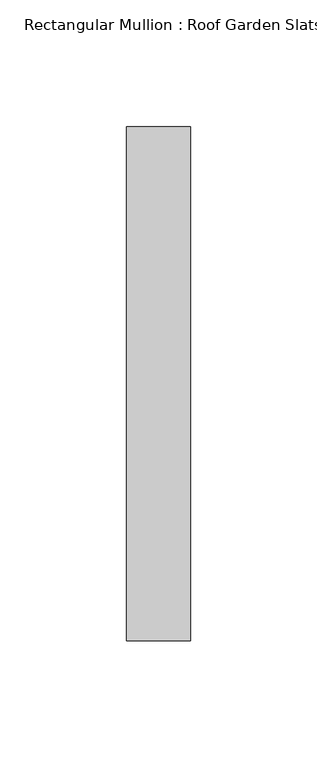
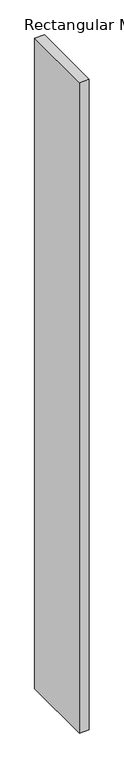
"""IFC4 building model written with IfcOpenShell, lengths in millimetres: member geometry, Rectangular Mullion : Roof Garden Slats."""

from ifc_helpers import new_model, si_unit, frame, origin, place, context, project, spatial, polyline, outline, extrude, source, transform, mapped, element, save


def rectangular_mullion_roof_garden_slats_b5a9ad73(model_context):
    return source(origin(), model_context, "Body", "SweptSolid", [
        extrude(outline(polyline([(12.7, 139.7), (12.7, -63.5), (-12.7, -63.5), (-12.7, 139.7), (12.7, 139.7)])), frame((0.0, 0.0, -1803.8452924), z_axis=(0.0, 0.0, 1.0), x_axis=(1.0, 0.0, 0.0)), (0.0, 0.0, 1.0), 1803.8452924),
    ])


if __name__ == "__main__":
    model = new_model("IFC4")
    model_context = context("Model", 3, world=origin())
    ifc_project = project(units=[si_unit("LENGTHUNIT", "METRE", prefix="MILLI")], contexts=[model_context])
    site = spatial("IfcSite", under=ifc_project)
    building = spatial("IfcBuilding", under=site)
    placement = place(None, origin())
    rectangular_mullion_roof_garden_slats_shape = rectangular_mullion_roof_garden_slats_b5a9ad73(model_context)
    element("IfcMember", 1, ObjectType="Rectangular Mullion : Roof Garden Slats", at=placement, inside=building, context=model_context, shape_type="MappedRepresentation", body=[
        mapped(rectangular_mullion_roof_garden_slats_shape, transform((0.0, 0.0, 0.0), x_axis=(1.0, 0.0, 0.0), y_axis=(0.0, 1.0, 0.0), z_axis=(0.0, 0.0, 1.0))),
    ])
    save(model, "model.ifc")
